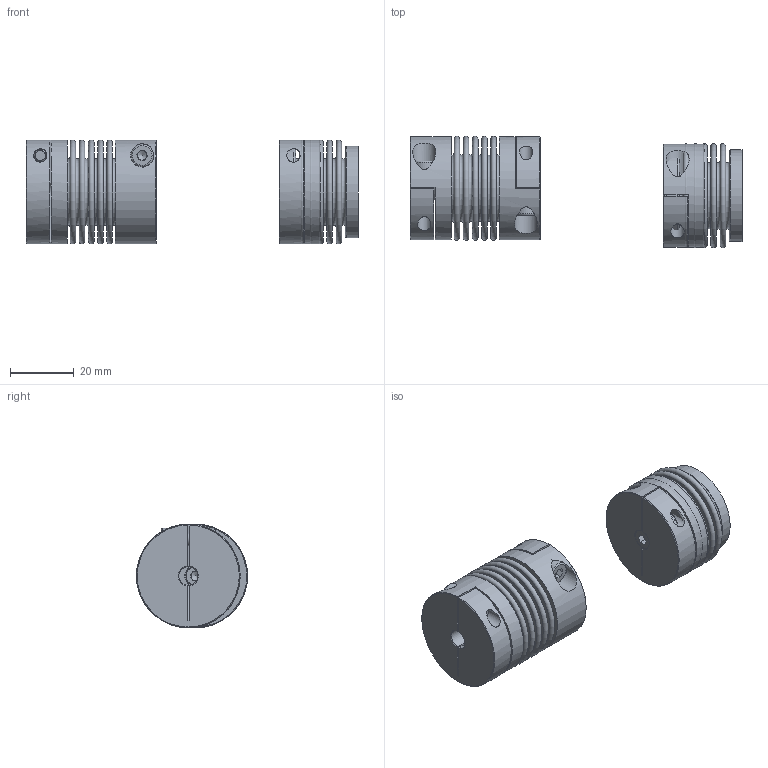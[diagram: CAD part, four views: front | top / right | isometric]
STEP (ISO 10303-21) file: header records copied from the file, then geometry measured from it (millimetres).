
FILE_DESCRIPTION( ( 'Unknown' ), '1' );
FILE_NAME( 'C:/Dokumente und Einstellungen/Sven/Desktop/cad - homepage/KB2/KB2-45-41.stp', 'Unknown', ( 'Unknown' ), ( 'Unknown' ), 'XStep 1.0', 'Unknown', ' ' );
FILE_SCHEMA( ( 'automotive_design' ) );
Length unit declared in the file: millimetre
Products named in the file (4): Assem1; Socket Head Cap Screw_DIN_DIN 912 M4 x 12 --- 12N; BK45_Standard; KN45_Standard
Bounding box: 104.45 x 35.02 x 32.67 mm (x, y, z)
Volume: 34053.7 mm3; surface area: 42270.9 mm2
Topology: 8 solids, 8 shells, 241 faces, 488 edges, 314 vertices
Faces by surface type: plane 130, torus 61, cylinder 35, cone 15
Full cylindrical faces by diameter (mm): 4 x6, 4.2 x3, 6 x3, 7 x3, 7.3 x3, 28.2 x4, 28.8 x4, 32.5 x3
Entity records: 2947 total; most frequent: CARTESIAN_POINT 514, DIRECTION 435, ORIENTED_EDGE 286, AXIS2_PLACEMENT_3D 196, EDGE_LOOP 174, EDGE_CURVE 143, FACE_OUTER_BOUND 139, VERTEX_POINT 118
